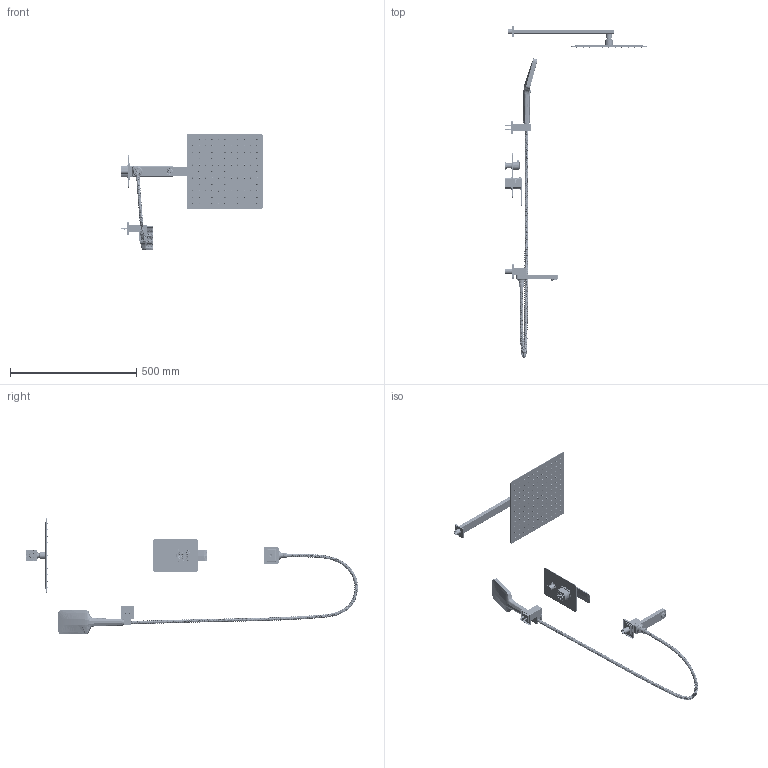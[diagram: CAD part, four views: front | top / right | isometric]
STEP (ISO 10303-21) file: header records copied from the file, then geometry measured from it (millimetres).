
FILE_DESCRIPTION((''),'2;1');
FILE_NAME('PT-939003_ASM','2025-04-01T08:58:30',('S'),(''),'CREO PARAMETRIC BY PTC INC, 2021023','CREO PARAMETRIC BY PTC INC, 2021023','');
FILE_SCHEMA(('AUTOMOTIVE_DESIGN { 1 0 10303 214 1 1 1 1 }'));
Products named in the file (251): 5DZ-001056-ACR; 4JT-001136-AJJ_AF0; 3ZB-001011-KAA; 890020001; 3ZB-001011-KCR_ASM; 3CX-001045-BAA; 3SJ-001037-MAA; 5SZ-001006-BCR; 5JT-001069-ACR; 3JQ-001095-NAA; 3WD-001025-MAA; 3WK-001004-ACR; 3JQ-001519-NAA; 3LS-001025-JAA; 3JQ-001117-NAA; 3JQ-001560-NAA; 5SZ-001057-BCR_AF0_ASM; 4ZT-87035-BJJ_AF0; 3CX-001019-BAA_AF0; 5TT-001037-ACR; 3FX-001038-MMA-1; 3FX-001038-MAA-2; 3FX-001038-MAA_ASM; 4TT-001081-AJJ; 5TT-001082-ACR_AF0; 3LS-001744-JAA_AF0; 3ZG-010013-GCR; 3MB-001079-KAA; 3MB-001078-1-KAA; 3MB-001072-KCR-2; 3MB-001079-KCR_ASM; 3BS-181003-HCR; 3LS-001063-JAA; 3SN-001001-MCR; 3JQ-001558-NAA; 3BS-261001A-HCR; 3LS-001022-JAA; 3SN-001006-NAA; 3JQ-001144-NAA; PT-939003-1_AF0_ASM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
Assembly tree (372 placements, depth 7):
  PT-939003_ASM
    5SZ-001057-BCR_AF0_ASM
      5DZ-001056-ACR
      4JT-001136-AJJ_AF0
      3ZB-001011-KCR_ASM
        3ZB-001011-KAA
        890020001
      3CX-001045-BAA
      3SJ-001037-MAA
      5SZ-001006-BCR
      5JT-001069-ACR
      3JQ-001095-NAA
      3WD-001025-MAA
      3WK-001004-ACR
      3JQ-001519-NAA
      3LS-001025-JAA  x2
      3JQ-001117-NAA
      3JQ-001560-NAA
    PT-939003-1_AF0_ASM
      4ZT-87035-BJJ_AF0
      3CX-001019-BAA_AF0
      5TT-001037-ACR
      3FX-001038-MAA_ASM
        3FX-001038-MMA-1
        3FX-001038-MAA-2
      4TT-001081-AJJ
      5TT-001082-ACR_AF0
      3LS-001744-JAA_AF0
      3ZG-010013-GCR
      3MB-001079-KCR_ASM
        3MB-001079-KAA
        3MB-001078-1-KAA
        3MB-001072-KCR-2
      3BS-181003-HCR
      3LS-001063-JAA
      3SN-001001-MCR
      3JQ-001558-NAA
      3BS-261001A-HCR
      3LS-001022-JAA
      3SN-001006-NAA
      3JQ-001144-NAA
    5ZB-001012-ACR
    3TG-001028-KCR_ASM
      400-10001
      0001
      0002
      0003
      0004
      3JQ-001056-NAA
    3DP-001008-JCR_ASM
      300-FDPZ_ASM_5_ASM_1_ASM
        300-FDP_5_1
        0326-JD_5_1  x121
        0620-WXD_5_1
        0620-LM_5_1
        0620-NMQ_5_1
        0326-QT_6_1
        0620-GLD_5_1
    5HZ-001025-GCR_AF0_ASM
      5TG-001029-GCR_ASM
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Bounding box: 561 x 1315.94 x 462.43 mm (x, y, z)
Volume: 1350234.7 mm3; surface area: 957761.2 mm2
Topology: 355 solids, 356 shells, 10135 faces, 25343 edges, 16270 vertices
Faces by surface type: plane 3316, cylinder 3051, cone 1913, torus 873, bspline 862, sphere 67, extrusion 51, revolution 2
Entity records: 623006 total; most frequent: CARTESIAN_POINT 343522, ORIENTED_EDGE 43702, DIRECTION 43179, EDGE_CURVE 21851, AXIS2_PLACEMENT_3D 17466, PRESENTATION_STYLE_ASSIGNMENT 14310, STYLED_ITEM 14268, VERTEX_POINT 14051
